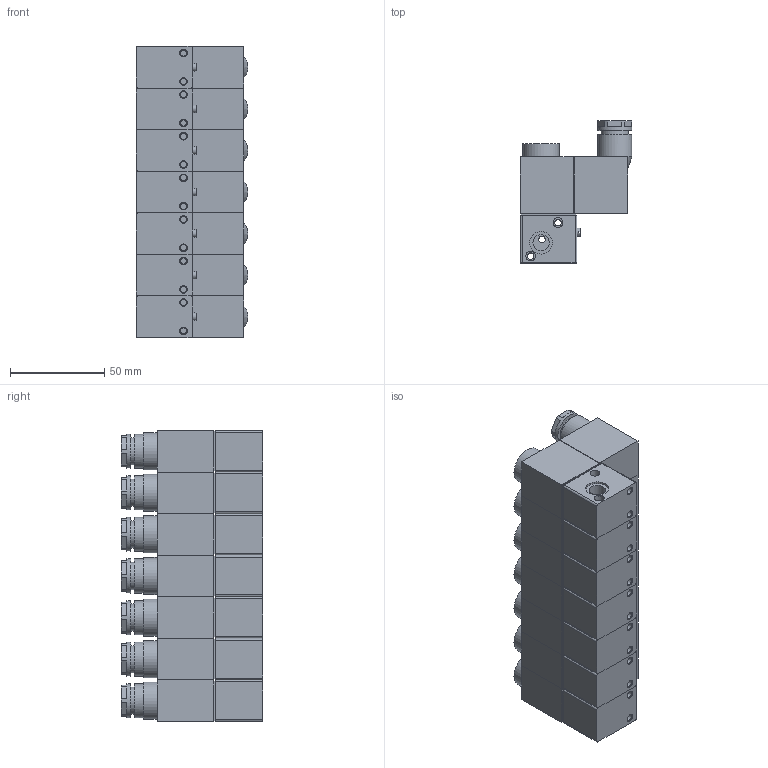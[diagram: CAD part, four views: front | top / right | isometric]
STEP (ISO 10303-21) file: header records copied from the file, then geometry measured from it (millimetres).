
FILE_DESCRIPTION(/* description */ ('STEP AP214'),/* implementation_level */ '2;1');
FILE_NAME(/* name */ '86-MS-3V-07-xxx.stp',/* time_stamp */ '2026-01-15T09:31:22+01:00',/* author */ ('Tschernatsch'),/* organization */ ('CADENAS'),/* preprocessor_version */ 'ST-DEVELOPER v20',/* originating_system */ 'Autodesk Inventor 2024',/* authorisation */ ' ');
FILE_SCHEMA (('AUTOMOTIVE_DESIGN { 1 0 10303 214 3 1 1 }'));
Length unit declared in the file: millimetre
Products named in the file (3): 3v1-06-LD-DC24V-7F; 3v1-06-LD-DC24V-7F3; 3v1-06-LD-DC24V-7F2
Assembly tree (14 placements, depth 2):
  3v1-06-LD-DC24V-7F
    3v1-06-LD-DC24V-7F3  x7
    3v1-06-LD-DC24V-7F2  x7
Bounding box: 59 x 75 x 154 mm (x, y, z)
Volume: 407386.4 mm3; surface area: 104025.2 mm2
Topology: 14 solids, 14 shells, 630 faces, 1365 edges, 903 vertices
Faces by surface type: plane 427, cylinder 175, cone 28
Full cylindrical faces by diameter (mm): 3.242 x14, 3.5 x21, 4 x7, 4.3 x7, 5.2 x28, 8.566 x21, 11 x7, 12 x14, 14.4 x7, 18 x14, 19.6 x7
Entity records: 2697 total; most frequent: DIRECTION 481, CARTESIAN_POINT 433, ORIENTED_EDGE 390, EDGE_CURVE 195, AXIS2_PLACEMENT_3D 180, VERTEX_POINT 129, LINE 121, VECTOR 121
